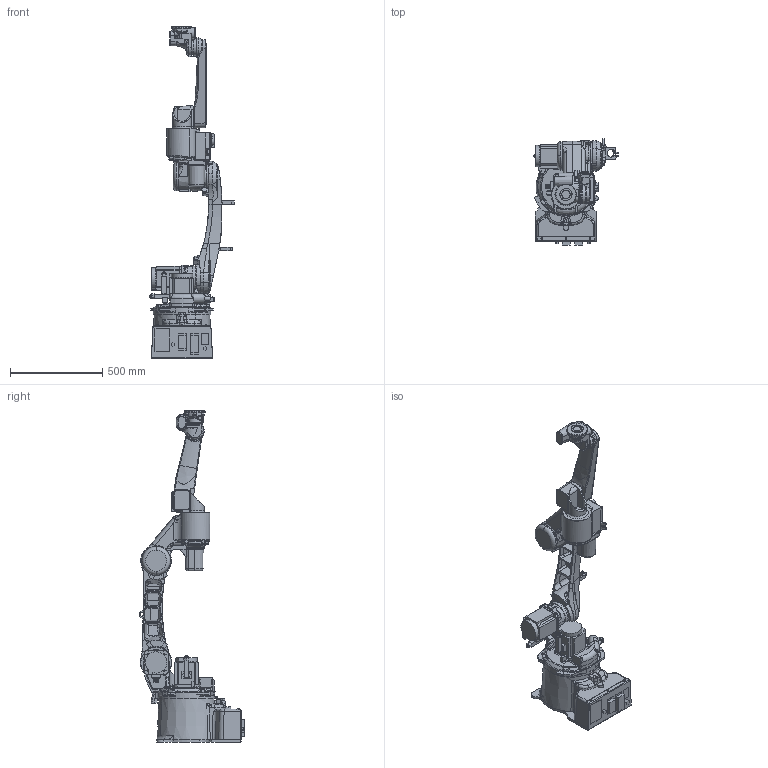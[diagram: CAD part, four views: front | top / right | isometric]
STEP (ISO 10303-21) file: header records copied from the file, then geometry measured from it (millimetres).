
FILE_DESCRIPTION(('CATIA V5 STEP Exchange'),'2;1');
FILE_NAME('F:\☆新しいフォルダ\【K-ROSET】\K-ROSET_モデル\ロボット\※ロボット\※B\BA006N_141003\軽量化\Part\　正）3軸以降90°修正済\BA006N-A001.stp','2015-01-06T01:46:24+00:00',('none'),('none'),'Version 5-6 Release 2012','CATIA V5 STEP AP203','none');
FILE_SCHEMA(('CONFIG_CONTROL_DESIGN'));
Products named in the file (1): BA006N-A001 (3軸以降90°）
Assembly tree (7 placements, depth 2):
  BA006N-A001 (3軸以降90°）
    #57
    #8182
    #42397
    #63199
    #76925
    #84315
    #95389
Bounding box: 457.5 x 572.3 x 1795 mm (x, y, z)
Volume: 58656544.6 mm3; surface area: 2763293.6 mm2
Topology: 11 solids, 13 shells, 1994 faces, 5283 edges, 3308 vertices
Faces by surface type: plane 773, bspline 491, cylinder 437, torus 142, cone 132, sphere 12, extrusion 4, revolution 3
Entity records: 95576 total; most frequent: CARTESIAN_POINT 53260, ORIENTED_EDGE 10428, DIRECTION 5680, EDGE_CURVE 5214, VERTEX_POINT 3307, AXIS2_PLACEMENT_3D 2404, B_SPLINE_CURVE_WITH_KNOTS 2086, EDGE_LOOP 2066
